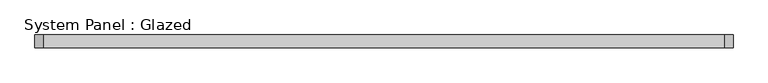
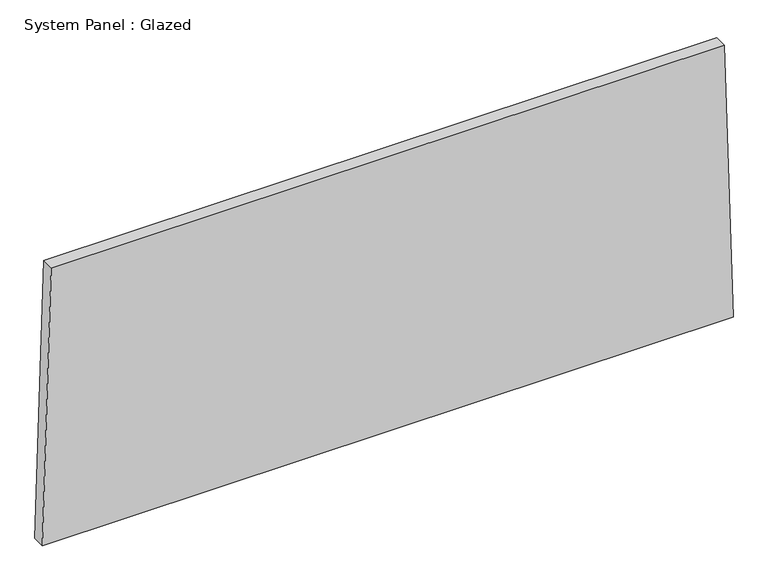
"""IFC4 building model written with IfcOpenShell, lengths in millimetres: plate geometry, System Panel : Glazed."""

import ifcopenshell
import ifcopenshell.guid

model = None  # the IFC model being written
_history = None  # IfcOwnerHistory: only IFC2X3 demands one
_inside = {}  # id of a spatial element -> (the spatial element, [elements in it])
_under = {}  # id of a project, library or spatial element -> (it, [spatial elements below it])
_declared = {}  # id of a project -> (the project, [libraries it declares])
_typed = {}  # id of a type object -> (the type object, [elements of that type])
_made_of = {}  # id of a material, layer set ... -> (it, [elements and type objects made of it])


def new_model(schema):
    """Start an empty IFC model of exactly this schema.

    Asked for "IFC4X3", IfcOpenShell would pick the latest addendum, in which some entities
    have other attributes; the version numbers below select the first issue.
    IFC2X3 requires an IfcOwnerHistory on every rooted entity: one is made here for all.
    """
    global model, _history
    if schema == "IFC4X3":
        model = ifcopenshell.file(schema_version=(4, 3, 0, 0))
    else:
        model = ifcopenshell.file(schema=schema)
    _inside.clear()
    _under.clear()
    _declared.clear()
    _typed.clear()
    _made_of.clear()
    _history = None
    if model.schema == "IFC2X3":
        org = make("IfcOrganization", Name="unknown")
        user = make(
            "IfcPersonAndOrganization",
            ThePerson=make("IfcPerson", FamilyName="unknown"),
            TheOrganization=org,
        )
        app = make(
            "IfcApplication",
            ApplicationDeveloper=org,
            Version="unknown",
            ApplicationFullName="unknown",
            ApplicationIdentifier="unknown",
        )
        _history = make(
            "IfcOwnerHistory",
            OwningUser=user,
            OwningApplication=app,
            ChangeAction="ADDED",
            CreationDate=0,
        )
    return model


def make(cls, **values):
    """One entity of the class cls with the attributes given. An attribute that is None is left unset."""
    return model.create_entity(
        cls, **{name: value for name, value in values.items() if value is not None}
    )


def rooted(cls, **values):
    """An entity with a GlobalId (a new one), such as an element, a storey or a relation."""
    return make(cls, GlobalId=ifcopenshell.guid.new(), OwnerHistory=_history, **values)


def si_unit(unit_type, name, prefix=None):
    """IfcSIUnit, for example si_unit("LENGTHUNIT", "METRE", prefix="MILLI")."""
    return make("IfcSIUnit", UnitType=unit_type, Prefix=prefix, Name=name)


def assignment(units):
    """IfcUnitAssignment: the units of a project."""
    return None if units is None else make("IfcUnitAssignment", Units=units)


def point(xyz):
    """IfcCartesianPoint."""
    return None if xyz is None else make("IfcCartesianPoint", Coordinates=xyz)


def direction(xyz):
    """IfcDirection."""
    return None if xyz is None else make("IfcDirection", DirectionRatios=xyz)


def frame(location, z_axis=None, x_axis=None):
    """IfcAxis2Placement3D, a coordinate frame: its origin and axes. An axis left out is left unset."""
    return make(
        "IfcAxis2Placement3D",
        Location=point(location),
        Axis=direction(z_axis),
        RefDirection=direction(x_axis),
    )


def origin():
    """The frame at (0, 0, 0) with its axes left unset."""
    return frame((0.0, 0.0, 0.0))


def place(relative_to, where):
    """IfcLocalPlacement: puts the frame where relative to a parent placement (None: the world)."""
    return make(
        "IfcLocalPlacement", PlacementRelTo=relative_to, RelativePlacement=where
    )


def context(
    kind, dimensions, precision=None, world=None, true_north=None, identifier=None
):
    """IfcGeometricRepresentationContext, for example the 3D "Model" context."""
    return make(
        "IfcGeometricRepresentationContext",
        ContextIdentifier=identifier,
        ContextType=kind,
        CoordinateSpaceDimension=dimensions,
        Precision=precision,
        WorldCoordinateSystem=world,
        TrueNorth=true_north,
    )


def project(units=None, contexts=None):
    """IfcProject with its units and contexts."""
    return rooted(
        "IfcProject",
        Name="project",
        RepresentationContexts=contexts,
        UnitsInContext=assignment(units),
    )


def spatial(cls, under=None, at=None, **own):
    """A site, building, storey or space (cls), placed at a placement, below another one or the project."""
    s = rooted(cls, ObjectPlacement=at, **own)
    if under is not None:
        _under.setdefault(under.id(), (under, []))[1].append(s)
    return s


def polyline(points):
    """IfcPolyline through the points."""
    return make("IfcPolyline", Points=[point(p) for p in points])


def outline(outer, holes=None, kind="AREA"):
    """IfcArbitraryClosedProfileDef: a profile drawn as a closed curve; with holes, ...WithVoids."""
    if holes is None:
        return make("IfcArbitraryClosedProfileDef", ProfileType=kind, OuterCurve=outer)
    return make(
        "IfcArbitraryProfileDefWithVoids",
        ProfileType=kind,
        OuterCurve=outer,
        InnerCurves=holes,
    )


def extrude(swept, where, along, depth):
    """IfcExtrudedAreaSolid: the profile swept, set in the frame where, extruded along a direction by depth."""
    return make(
        "IfcExtrudedAreaSolid",
        SweptArea=swept,
        Position=where,
        ExtrudedDirection=direction(along),
        Depth=depth,
    )


def shape(context_of_items, identifier, shape_type, items):
    """IfcShapeRepresentation: the items that make up one representation, for example the "Body"."""
    return make(
        "IfcShapeRepresentation",
        ContextOfItems=context_of_items,
        RepresentationIdentifier=identifier,
        RepresentationType=shape_type,
        Items=items,
    )


def source(mapping_origin, context_of_items, identifier, shape_type, items):
    """IfcRepresentationMap: a shape defined once, which mapped items show again and again."""
    return make(
        "IfcRepresentationMap",
        MappingOrigin=mapping_origin,
        MappedRepresentation=shape(context_of_items, identifier, shape_type, items),
    )


def transform(
    local_origin,
    x_axis=None,
    y_axis=None,
    z_axis=None,
    scale=None,
    scale2=None,
    scale3=None,
    uniform=True,
):
    """IfcCartesianTransformationOperator3D, or its non-uniform kind. x_axis, y_axis, z_axis: its Axis1, 2, 3."""
    if uniform:
        return make(
            "IfcCartesianTransformationOperator3D",
            Axis1=direction(x_axis),
            Axis2=direction(y_axis),
            LocalOrigin=point(local_origin),
            Scale=scale,
            Axis3=direction(z_axis),
        )
    return make(
        "IfcCartesianTransformationOperator3DnonUniform",
        Axis1=direction(x_axis),
        Axis2=direction(y_axis),
        LocalOrigin=point(local_origin),
        Scale=scale,
        Axis3=direction(z_axis),
        Scale2=scale2,
        Scale3=scale3,
    )


def mapped(mapping_source, mapping_target):
    """IfcMappedItem: shows the shape of a source again, moved by a transform."""
    return make(
        "IfcMappedItem", MappingSource=mapping_source, MappingTarget=mapping_target
    )


def made_of(thing, what):
    """Note that an element or type object is made of a material, layer set ...; save() writes the relation."""
    if what is not None:
        _made_of.setdefault(what.id(), (what, []))[1].append(thing)
    return thing


def element(
    cls,
    number,
    at=None,
    inside=None,
    cuts=None,
    type_object=None,
    material=None,
    context=None,
    identifier="Body",
    shape_type=None,
    held_by="IfcProductDefinitionShape",
    body=None,
    shapes=None,
    **own,
):
    """One element of the class cls, such as IfcWall. Its Tag is "e" and its number.

    at: its placement. inside: the storey or other place that contains it. cuts: it is an
    opening in that element (IfcRelVoidsElement). A single representation is given by context,
    identifier, shape_type and body (its items); several are given by shapes. held_by: the class
    of the entity that holds the representations. save() writes the other relations.
    """
    e = rooted(cls, Tag="e%d" % number, ObjectPlacement=at, **own)
    if body is not None:
        shapes = [shape(context, identifier, shape_type, body)]
    if shapes is not None:
        e.Representation = make(held_by, Representations=shapes)
    if inside is not None:
        _inside.setdefault(inside.id(), (inside, []))[1].append(e)
    if cuts is not None:
        rooted(
            "IfcRelVoidsElement", RelatingBuildingElement=cuts, RelatedOpeningElement=e
        )
    if type_object is not None:
        _typed.setdefault(type_object.id(), (type_object, []))[1].append(e)
    return made_of(e, material)


def aggregate(whole, parts):
    """IfcRelAggregates: a whole, such as a stair, and the parts it consists of."""
    return rooted("IfcRelAggregates", RelatingObject=whole, RelatedObjects=parts)


def save(model, path):
    """Write the relations noted so far, then the file.

    IfcRelAggregates (storeys below a building ...), IfcRelContainedInSpatialStructure (elements
    in a storey), IfcRelDefinesByType, IfcRelAssociatesMaterial and IfcRelDeclares: one each for
    every whole, place, type object, material and project.
    """
    for whole, parts in _under.values():
        aggregate(whole, parts)
    for where, things in _inside.values():
        rooted(
            "IfcRelContainedInSpatialStructure",
            RelatedElements=things,
            RelatingStructure=where,
        )
    for kind, things in _typed.values():
        rooted("IfcRelDefinesByType", RelatedObjects=things, RelatingType=kind)
    for what, things in _made_of.values():
        rooted("IfcRelAssociatesMaterial", RelatedObjects=things, RelatingMaterial=what)
    for by, libraries in _declared.values():
        rooted("IfcRelDeclares", RelatingContext=by, RelatedDefinitions=libraries)
    model.write(path)


def system_panel_glazed_6419fff8(model_context):
    return source(origin(), model_context, "Body", "SweptSolid", [
        extrude(outline(polyline([(0.0, -693.1618305), (0.0, 693.1618305), (583.9195406, 675.4431881), (583.9195406, -675.4431881), (0.0, -693.1618305)])), frame((0.0, 19.05, 0.0), z_axis=(0.0, 1.0, 0.0), x_axis=(0.0, 0.0, 1.0)), (0.0, 0.0, 1.0), 25.4),
    ])


if __name__ == "__main__":
    model = new_model("IFC4")
    model_context = context("Model", 3, world=origin())
    ifc_project = project(units=[si_unit("LENGTHUNIT", "METRE", prefix="MILLI")], contexts=[model_context])
    site = spatial("IfcSite", under=ifc_project)
    building = spatial("IfcBuilding", under=site)
    placement = place(None, origin())
    system_panel_glazed_shape = system_panel_glazed_6419fff8(model_context)
    element("IfcPlate", 1, ObjectType="System Panel : Glazed", at=placement, inside=building, context=model_context, shape_type="MappedRepresentation", body=[
        mapped(system_panel_glazed_shape, transform((0.0, 0.0, 0.0), x_axis=(1.0, 0.0, 0.0), y_axis=(0.0, 1.0, 0.0), z_axis=(0.0, 0.0, 1.0))),
    ])
    save(model, "model.ifc")
